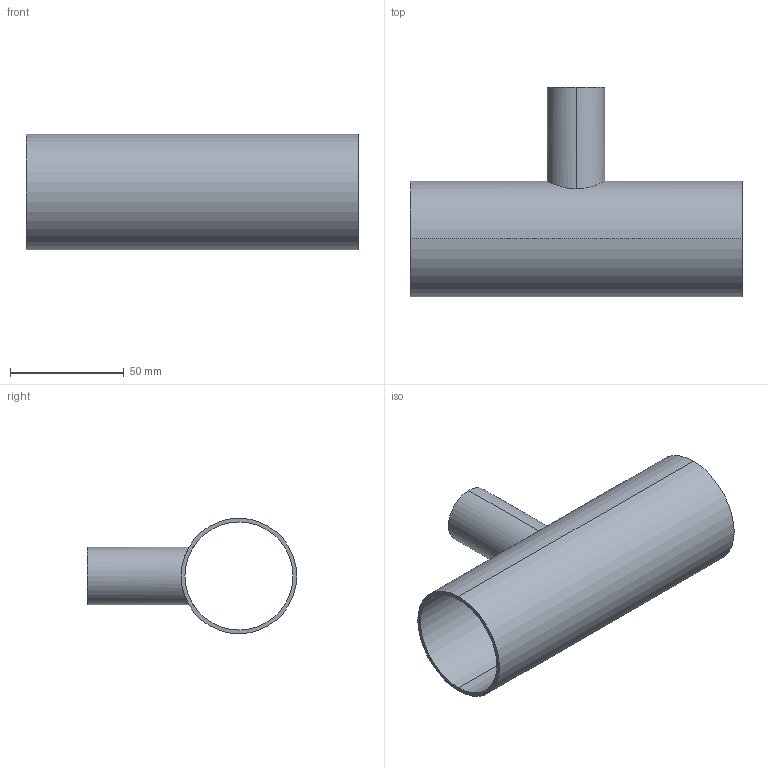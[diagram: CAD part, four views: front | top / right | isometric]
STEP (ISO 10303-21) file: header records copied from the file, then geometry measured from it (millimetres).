
FILE_DESCRIPTION (( 'STEP AP214' ), '1' );
FILE_NAME ('TE7RWWW6L2.0x1.0-...STEP', '2016-05-24T04:14:18', ( 'eran' ), ( '' ), 'SwSTEP 2.0', 'SolidWorks 2016', '' );
FILE_SCHEMA (( 'AUTOMOTIVE_DESIGN' ));
Length unit declared in the file: millimetre
Products named in the file (1): TE7RWWW6L2.0x1.0-..
Bounding box: 146 x 92.1 x 50.8 mm (x, y, z)
Volume: 41810.9 mm3; surface area: 51305.1 mm2
Topology: 1 solids, 1 shells, 11 faces, 24 edges, 16 vertices
Faces by surface type: cylinder 8, plane 3
Entity records: 540 total; most frequent: CARTESIAN_POINT 248, DIRECTION 56, ORIENTED_EDGE 48, EDGE_CURVE 24, AXIS2_PLACEMENT_3D 24, EDGE_LOOP 16, VERTEX_POINT 16, CIRCLE 12
